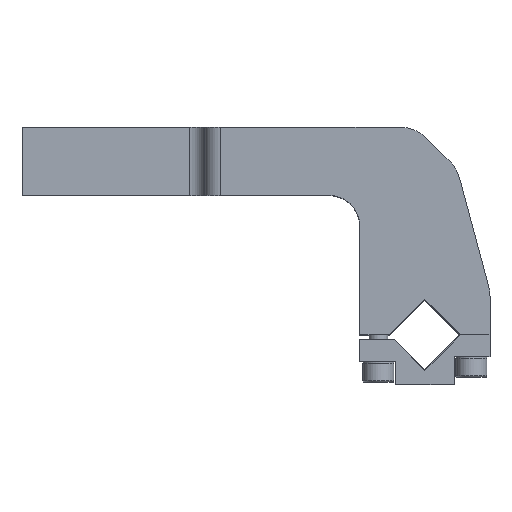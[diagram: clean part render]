
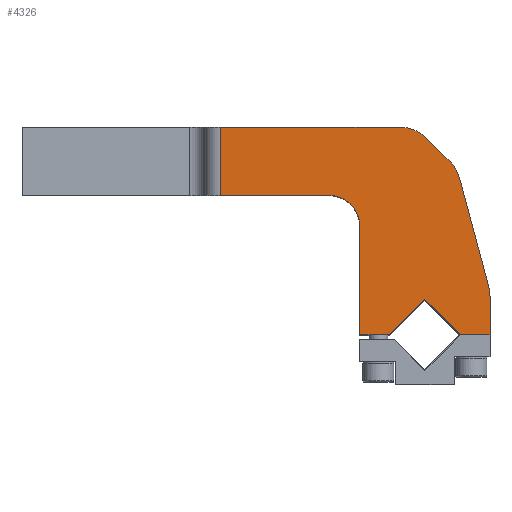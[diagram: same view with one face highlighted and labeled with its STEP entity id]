
A CAD part, top view. The second image highlights one B-rep face of the part: STEP entity #4326.
In plain terms, the highlighted planar face has unit normal (0, 0, 1).
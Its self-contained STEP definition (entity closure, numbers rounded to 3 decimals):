
#560=CARTESIAN_POINT('Vertex',(-7.971,67.,27.)) ;
#563=CARTESIAN_POINT('Axis2P3D Location',(-7.971,55.,27.)) ;
#567=CARTESIAN_POINT('Vertex',(0.515,63.485,27.)) ;
#1167=CARTESIAN_POINT('Vertex',(-21.,0.,27.)) ;
#1170=CARTESIAN_POINT('Line Origine',(-21.,17.5,27.)) ;
#1174=CARTESIAN_POINT('Vertex',(-21.,35.,27.)) ;
#1189=CARTESIAN_POINT('Axis2P3D Location',(-31.,35.,27.)) ;
#1193=CARTESIAN_POINT('Vertex',(-31.,45.,27.)) ;
#1208=CARTESIAN_POINT('Line Origine',(4.313,59.687,27.)) ;
#1212=CARTESIAN_POINT('Vertex',(8.112,55.888,27.)) ;
#1227=CARTESIAN_POINT('Axis2P3D Location',(-0.374,47.403,27.)) ;
#1231=CARTESIAN_POINT('Vertex',(11.217,50.509,27.)) ;
#1246=CARTESIAN_POINT('Line Origine',(15.904,33.017,27.)) ;
#1250=CARTESIAN_POINT('Vertex',(20.591,15.526,27.)) ;
#1265=CARTESIAN_POINT('Axis2P3D Location',(9.,12.42,27.)) ;
#1269=CARTESIAN_POINT('Vertex',(21.,12.42,27.)) ;
#1284=CARTESIAN_POINT('Line Origine',(21.,6.21,27.)) ;
#1288=CARTESIAN_POINT('Vertex',(21.,0.,27.)) ;
#3140=CARTESIAN_POINT('Axis2P3D Location',(0.,0.,27.)) ;
#3920=CARTESIAN_POINT('Vertex',(-11.455,0.,27.)) ;
#3923=CARTESIAN_POINT('Line Origine',(-16.228,0.,27.)) ;
#3944=CARTESIAN_POINT('Vertex',(11.455,0.,27.)) ;
#3947=CARTESIAN_POINT('Line Origine',(16.228,0.,27.)) ;
#3973=CARTESIAN_POINT('Vertex',(0.,11.455,27.)) ;
#3976=CARTESIAN_POINT('Line Origine',(-5.728,5.728,27.)) ;
#3993=CARTESIAN_POINT('Line Origine',(5.728,5.728,27.)) ;
#4176=CARTESIAN_POINT('Vertex',(-66.,67.,27.)) ;
#4181=CARTESIAN_POINT('Line Origine',(-36.985,67.,27.)) ;
#4260=CARTESIAN_POINT('Vertex',(-66.,45.,27.)) ;
#4263=CARTESIAN_POINT('Line Origine',(-48.5,45.,27.)) ;
#4304=CARTESIAN_POINT('Line Origine',(-66.,56.,27.)) ;
#564=DIRECTION('Axis2P3D Direction',(0.,-0.,1.)) ;
#1171=DIRECTION('Vector Direction',(0.,1.,0.)) ;
#1190=DIRECTION('Axis2P3D Direction',(-0.,0.,1.)) ;
#1209=DIRECTION('Vector Direction',(0.707,-0.707,0.)) ;
#1228=DIRECTION('Axis2P3D Direction',(0.,-0.,1.)) ;
#1247=DIRECTION('Vector Direction',(0.259,-0.966,0.)) ;
#1266=DIRECTION('Axis2P3D Direction',(-0.,0.,1.)) ;
#1285=DIRECTION('Vector Direction',(0.,-1.,0.)) ;
#3141=DIRECTION('Axis2P3D Direction',(0.,-0.,1.)) ;
#3142=DIRECTION('Axis2P3D XDirection',(0.,1.,0.)) ;
#3924=DIRECTION('Vector Direction',(-1.,0.,0.)) ;
#3948=DIRECTION('Vector Direction',(-1.,0.,0.)) ;
#3977=DIRECTION('Vector Direction',(0.707,0.707,0.)) ;
#3994=DIRECTION('Vector Direction',(0.707,-0.707,0.)) ;
#4182=DIRECTION('Vector Direction',(1.,0.,0.)) ;
#4264=DIRECTION('Vector Direction',(-1.,0.,0.)) ;
#4305=DIRECTION('Vector Direction',(0.,1.,0.)) ;
#565=AXIS2_PLACEMENT_3D('Circle Axis2P3D',#563,#564,$) ;
#1191=AXIS2_PLACEMENT_3D('Circle Axis2P3D',#1189,#1190,$) ;
#1229=AXIS2_PLACEMENT_3D('Circle Axis2P3D',#1227,#1228,$) ;
#1267=AXIS2_PLACEMENT_3D('Circle Axis2P3D',#1265,#1266,$) ;
#3143=AXIS2_PLACEMENT_3D('Plane Axis2P3D',#3140,#3141,#3142) ;
#4310=ORIENTED_EDGE('',*,*,#4267,.T.) ;
#4311=ORIENTED_EDGE('',*,*,#1195,.T.) ;
#4312=ORIENTED_EDGE('',*,*,#1176,.T.) ;
#4313=ORIENTED_EDGE('',*,*,#3927,.T.) ;
#4314=ORIENTED_EDGE('',*,*,#3980,.T.) ;
#4315=ORIENTED_EDGE('',*,*,#3997,.T.) ;
#4316=ORIENTED_EDGE('',*,*,#3951,.T.) ;
#4317=ORIENTED_EDGE('',*,*,#1290,.T.) ;
#4318=ORIENTED_EDGE('',*,*,#1271,.T.) ;
#4319=ORIENTED_EDGE('',*,*,#1252,.T.) ;
#4320=ORIENTED_EDGE('',*,*,#1233,.T.) ;
#4321=ORIENTED_EDGE('',*,*,#1214,.T.) ;
#4322=ORIENTED_EDGE('',*,*,#569,.T.) ;
#4323=ORIENTED_EDGE('',*,*,#4185,.T.) ;
#4324=ORIENTED_EDGE('',*,*,#4308,.F.) ;
#1172=VECTOR('Line Direction',#1171,1.) ;
#1210=VECTOR('Line Direction',#1209,1.) ;
#1248=VECTOR('Line Direction',#1247,1.) ;
#1286=VECTOR('Line Direction',#1285,1.) ;
#3925=VECTOR('Line Direction',#3924,1.) ;
#3949=VECTOR('Line Direction',#3948,1.) ;
#3978=VECTOR('Line Direction',#3977,1.) ;
#3995=VECTOR('Line Direction',#3994,1.) ;
#4183=VECTOR('Line Direction',#4182,1.) ;
#4265=VECTOR('Line Direction',#4264,1.) ;
#4306=VECTOR('Line Direction',#4305,1.) ;
#4326=ADVANCED_FACE('Brep With Voids',(#4325),#3144,.T.) ;
#566=CIRCLE('generated circle',#565,12.) ;
#1192=CIRCLE('generated circle',#1191,10.) ;
#1230=CIRCLE('generated circle',#1229,12.) ;
#1268=CIRCLE('generated circle',#1267,12.) ;
#569=EDGE_CURVE('',#568,#561,#566,.T.) ;
#1176=EDGE_CURVE('',#1175,#1168,#1173,.F.) ;
#1195=EDGE_CURVE('',#1194,#1175,#1192,.F.) ;
#1214=EDGE_CURVE('',#1213,#568,#1211,.F.) ;
#1233=EDGE_CURVE('',#1232,#1213,#1230,.T.) ;
#1252=EDGE_CURVE('',#1251,#1232,#1249,.F.) ;
#1271=EDGE_CURVE('',#1270,#1251,#1268,.T.) ;
#1290=EDGE_CURVE('',#1289,#1270,#1287,.F.) ;
#3927=EDGE_CURVE('',#1168,#3921,#3926,.F.) ;
#3951=EDGE_CURVE('',#3945,#1289,#3950,.F.) ;
#3980=EDGE_CURVE('',#3921,#3974,#3979,.T.) ;
#3997=EDGE_CURVE('',#3974,#3945,#3996,.T.) ;
#4185=EDGE_CURVE('',#561,#4177,#4184,.F.) ;
#4267=EDGE_CURVE('',#4261,#1194,#4266,.F.) ;
#4308=EDGE_CURVE('',#4261,#4177,#4307,.T.) ;
#4309=EDGE_LOOP('',(#4310,#4311,#4312,#4313,#4314,#4315,#4316,#4317,#4318,#4319,#4320,#4321,#4322,#4323,#4324)) ;
#4325=FACE_OUTER_BOUND('',#4309,.T.) ;
#1173=LINE('Line',#1170,#1172) ;
#1211=LINE('Line',#1208,#1210) ;
#1249=LINE('Line',#1246,#1248) ;
#1287=LINE('Line',#1284,#1286) ;
#3926=LINE('Line',#3923,#3925) ;
#3950=LINE('Line',#3947,#3949) ;
#3979=LINE('Line',#3976,#3978) ;
#3996=LINE('Line',#3993,#3995) ;
#4184=LINE('Line',#4181,#4183) ;
#4266=LINE('Line',#4263,#4265) ;
#4307=LINE('Line',#4304,#4306) ;
#3144=PLANE('Plane',#3143) ;
#561=VERTEX_POINT('',#560) ;
#568=VERTEX_POINT('',#567) ;
#1168=VERTEX_POINT('',#1167) ;
#1175=VERTEX_POINT('',#1174) ;
#1194=VERTEX_POINT('',#1193) ;
#1213=VERTEX_POINT('',#1212) ;
#1232=VERTEX_POINT('',#1231) ;
#1251=VERTEX_POINT('',#1250) ;
#1270=VERTEX_POINT('',#1269) ;
#1289=VERTEX_POINT('',#1288) ;
#3921=VERTEX_POINT('',#3920) ;
#3945=VERTEX_POINT('',#3944) ;
#3974=VERTEX_POINT('',#3973) ;
#4177=VERTEX_POINT('',#4176) ;
#4261=VERTEX_POINT('',#4260) ;
